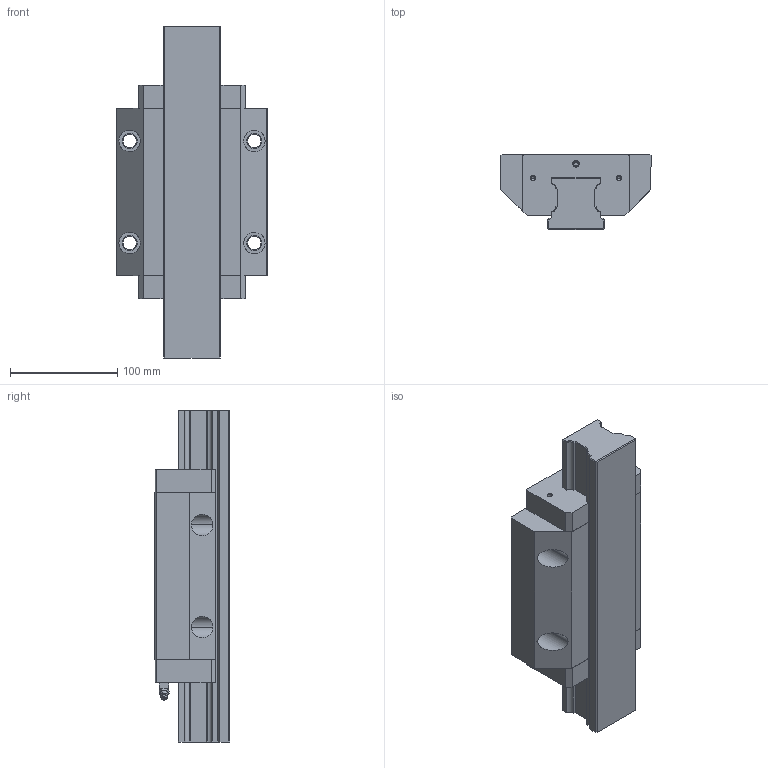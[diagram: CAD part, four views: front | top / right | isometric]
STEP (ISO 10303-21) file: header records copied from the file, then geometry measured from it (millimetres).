
FILE_DESCRIPTION((''),'2;1');
FILE_NAME('KWC_055_FLS_CS__ASM','2021-10-13T05:39:33',('ac91sw'),(''),'CREO PARAMETRIC BY PTC INC, 2020044','CREO PARAMETRIC BY PTC INC, 2020044','');
FILE_SCHEMA(('AUTOMOTIVE_DESIGN { 1 0 10303 214 1 1 1 1 }'));
Length unit declared in the file: millimetre
Products named in the file (7): KWC_055_FLS_CS__SKEL; R169850051; R160150012_Z; KWC_055_FLS_CS__PSF; R343706101_Z; R341700702_Z; KWC_055_FLS_CS__ASM
Assembly tree (7 placements, depth 2):
  KWC_055_FLS_CS__ASM
    KWC_055_FLS_CS__SKEL
    R169850051
    R160150012_Z  x2
    KWC_055_FLS_CS__PSF
    R343706101_Z
    R341700702_Z
Bounding box: 140 x 70 x 309 mm (x, y, z)
Volume: 1525838 mm3; surface area: 220096.7 mm2
Topology: 6 solids, 19 shells, 310 faces, 793 edges, 509 vertices
Faces by surface type: plane 172, cylinder 96, cone 38, bspline 2, sphere 2
Entity records: 14150 total; most frequent: CARTESIAN_POINT 1806, DIRECTION 1409, ORIENTED_EDGE 1278, PROPERTY_DEFINITION 820, REPRESENTATION 812, PROPERTY_DEFINITION_REPRESENTATION 812, DESCRIPTIVE_REPRESENTATION_ITEM 760, GENERAL_PROPERTY 752
